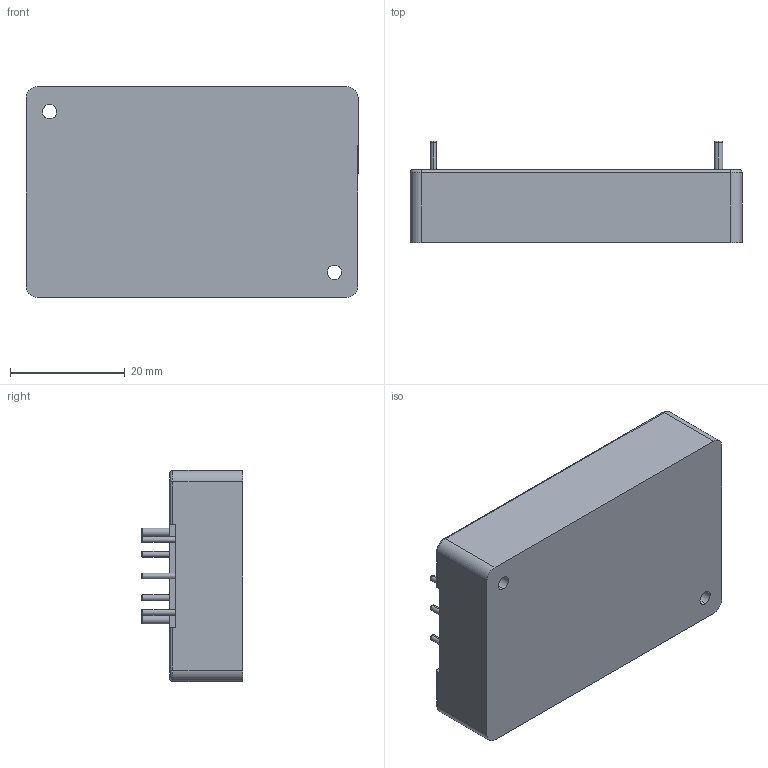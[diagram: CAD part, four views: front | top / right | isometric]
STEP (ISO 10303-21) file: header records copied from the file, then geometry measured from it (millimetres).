
FILE_DESCRIPTION (( 'STEP AP214' ), '1' );
FILE_NAME ('CN100A24 MODULE.STEP', '2011-12-14T19:32:37', ( 'TDK-Lambda Americas Inc.' ), ( 'TDK-Lambda Americas Inc.' ), 'SwSTEP 2.0', 'SolidWorks 2011', '' );
FILE_SCHEMA (( 'AUTOMOTIVE_DESIGN' ));
Length unit declared in the file: millimetre
Products named in the file (1): CN100A24 MODULE
Bounding box: 57.9 x 17.7 x 36.8 mm (x, y, z)
Volume: 26689.2 mm3; surface area: 7021.3 mm2
Topology: 1 solids, 1 shells, 84 faces, 186 edges, 116 vertices
Faces by surface type: cylinder 38, plane 26, torus 20
Entity records: 2920 total; most frequent: DIRECTION 468, CARTESIAN_POINT 387, ORIENTED_EDGE 372, AXIS2_PLACEMENT_3D 197, EDGE_CURVE 186, VERTEX_POINT 116, CIRCLE 112, EDGE_LOOP 100
